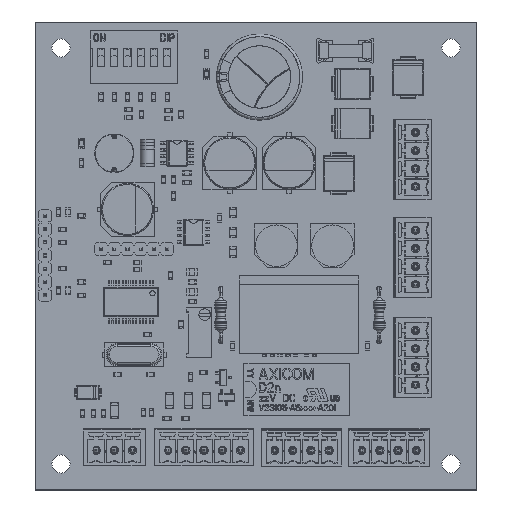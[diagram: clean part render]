
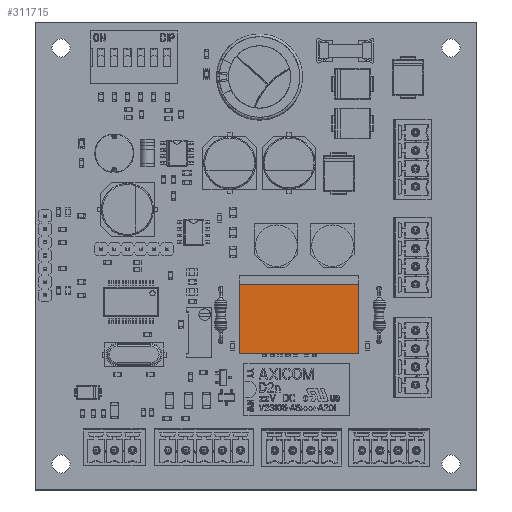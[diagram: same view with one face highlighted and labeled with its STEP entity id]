
A CAD part, top view. The second image highlights one B-rep face of the part: STEP entity #311715.
In plain terms, the highlighted planar face has unit normal (0, 0, 1).
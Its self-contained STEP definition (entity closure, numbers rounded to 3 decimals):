
#311401 = VERTEX_POINT('',#311402);
#311402 = CARTESIAN_POINT('',(-11.5,-7.5,1.6));
#311409 = PLANE('',#311410);
#311410 = AXIS2_PLACEMENT_3D('',#311411,#311412,#311413);
#311411 = CARTESIAN_POINT('',(-11.5,-7.5,0.));
#311412 = DIRECTION('',(-1.,0.,0.));
#311413 = DIRECTION('',(0.,1.,0.));
#311421 = PLANE('',#311422);
#311422 = AXIS2_PLACEMENT_3D('',#311423,#311424,#311425);
#311423 = CARTESIAN_POINT('',(11.5,-7.5,0.));
#311424 = DIRECTION('',(0.,-1.,0.));
#311425 = DIRECTION('',(-1.,0.,0.));
#311433 = EDGE_CURVE('',#311401,#311434,#311436,.T.);
#311434 = VERTEX_POINT('',#311435);
#311435 = CARTESIAN_POINT('',(-11.5,7.5,1.6));
#311436 = SURFACE_CURVE('',#311437,(#311441,#311448),.PCURVE_S1.);
#311437 = LINE('',#311438,#311439);
#311438 = CARTESIAN_POINT('',(-11.5,-7.5,1.6));
#311439 = VECTOR('',#311440,1.);
#311440 = DIRECTION('',(0.,1.,0.));
#311441 = PCURVE('',#311409,#311442);
#311442 = DEFINITIONAL_REPRESENTATION('',(#311443),#311447);
#311443 = LINE('',#311444,#311445);
#311444 = CARTESIAN_POINT('',(0.,-1.6));
#311445 = VECTOR('',#311446,1.);
#311446 = DIRECTION('',(1.,0.));
#311447 = ( GEOMETRIC_REPRESENTATION_CONTEXT(2) 
PARAMETRIC_REPRESENTATION_CONTEXT() REPRESENTATION_CONTEXT('2D SPACE',''
  ) );
#311448 = PCURVE('',#311449,#311454);
#311449 = PLANE('',#311450);
#311450 = AXIS2_PLACEMENT_3D('',#311451,#311452,#311453);
#311451 = CARTESIAN_POINT('',(-11.5,-7.5,1.6));
#311452 = DIRECTION('',(0.,0.,1.));
#311453 = DIRECTION('',(1.,0.,0.));
#311454 = DEFINITIONAL_REPRESENTATION('',(#311455),#311459);
#311455 = LINE('',#311456,#311457);
#311456 = CARTESIAN_POINT('',(0.,0.));
#311457 = VECTOR('',#311458,1.);
#311458 = DIRECTION('',(0.,1.));
#311459 = ( GEOMETRIC_REPRESENTATION_CONTEXT(2) 
PARAMETRIC_REPRESENTATION_CONTEXT() REPRESENTATION_CONTEXT('2D SPACE',''
  ) );
#311477 = PLANE('',#311478);
#311478 = AXIS2_PLACEMENT_3D('',#311479,#311480,#311481);
#311479 = CARTESIAN_POINT('',(-11.5,7.5,0.));
#311480 = DIRECTION('',(0.,1.,0.));
#311481 = DIRECTION('',(1.,0.,0.));
#311519 = EDGE_CURVE('',#311434,#311520,#311522,.T.);
#311520 = VERTEX_POINT('',#311521);
#311521 = CARTESIAN_POINT('',(11.5,7.5,1.6));
#311522 = SURFACE_CURVE('',#311523,(#311527,#311534),.PCURVE_S1.);
#311523 = LINE('',#311524,#311525);
#311524 = CARTESIAN_POINT('',(-11.5,7.5,1.6));
#311525 = VECTOR('',#311526,1.);
#311526 = DIRECTION('',(1.,0.,0.));
#311527 = PCURVE('',#311477,#311528);
#311528 = DEFINITIONAL_REPRESENTATION('',(#311529),#311533);
#311529 = LINE('',#311530,#311531);
#311530 = CARTESIAN_POINT('',(0.,-1.6));
#311531 = VECTOR('',#311532,1.);
#311532 = DIRECTION('',(1.,0.));
#311533 = ( GEOMETRIC_REPRESENTATION_CONTEXT(2) 
PARAMETRIC_REPRESENTATION_CONTEXT() REPRESENTATION_CONTEXT('2D SPACE',''
  ) );
#311534 = PCURVE('',#311449,#311535);
#311535 = DEFINITIONAL_REPRESENTATION('',(#311536),#311540);
#311536 = LINE('',#311537,#311538);
#311537 = CARTESIAN_POINT('',(0.,15.));
#311538 = VECTOR('',#311539,1.);
#311539 = DIRECTION('',(1.,0.));
#311540 = ( GEOMETRIC_REPRESENTATION_CONTEXT(2) 
PARAMETRIC_REPRESENTATION_CONTEXT() REPRESENTATION_CONTEXT('2D SPACE',''
  ) );
#311558 = PLANE('',#311559);
#311559 = AXIS2_PLACEMENT_3D('',#311560,#311561,#311562);
#311560 = CARTESIAN_POINT('',(11.5,7.5,0.));
#311561 = DIRECTION('',(1.,0.,0.));
#311562 = DIRECTION('',(0.,-1.,0.));
#311595 = EDGE_CURVE('',#311520,#311596,#311598,.T.);
#311596 = VERTEX_POINT('',#311597);
#311597 = CARTESIAN_POINT('',(11.5,-7.5,1.6));
#311598 = SURFACE_CURVE('',#311599,(#311603,#311610),.PCURVE_S1.);
#311599 = LINE('',#311600,#311601);
#311600 = CARTESIAN_POINT('',(11.5,7.5,1.6));
#311601 = VECTOR('',#311602,1.);
#311602 = DIRECTION('',(0.,-1.,0.));
#311603 = PCURVE('',#311558,#311604);
#311604 = DEFINITIONAL_REPRESENTATION('',(#311605),#311609);
#311605 = LINE('',#311606,#311607);
#311606 = CARTESIAN_POINT('',(0.,-1.6));
#311607 = VECTOR('',#311608,1.);
#311608 = DIRECTION('',(1.,0.));
#311609 = ( GEOMETRIC_REPRESENTATION_CONTEXT(2) 
PARAMETRIC_REPRESENTATION_CONTEXT() REPRESENTATION_CONTEXT('2D SPACE',''
  ) );
#311610 = PCURVE('',#311449,#311611);
#311611 = DEFINITIONAL_REPRESENTATION('',(#311612),#311616);
#311612 = LINE('',#311613,#311614);
#311613 = CARTESIAN_POINT('',(23.,15.));
#311614 = VECTOR('',#311615,1.);
#311615 = DIRECTION('',(0.,-1.));
#311616 = ( GEOMETRIC_REPRESENTATION_CONTEXT(2) 
PARAMETRIC_REPRESENTATION_CONTEXT() REPRESENTATION_CONTEXT('2D SPACE',''
  ) );
#311666 = EDGE_CURVE('',#311596,#311401,#311667,.T.);
#311667 = SURFACE_CURVE('',#311668,(#311672,#311679),.PCURVE_S1.);
#311668 = LINE('',#311669,#311670);
#311669 = CARTESIAN_POINT('',(11.5,-7.5,1.6));
#311670 = VECTOR('',#311671,1.);
#311671 = DIRECTION('',(-1.,0.,0.));
#311672 = PCURVE('',#311421,#311673);
#311673 = DEFINITIONAL_REPRESENTATION('',(#311674),#311678);
#311674 = LINE('',#311675,#311676);
#311675 = CARTESIAN_POINT('',(0.,-1.6));
#311676 = VECTOR('',#311677,1.);
#311677 = DIRECTION('',(1.,0.));
#311678 = ( GEOMETRIC_REPRESENTATION_CONTEXT(2) 
PARAMETRIC_REPRESENTATION_CONTEXT() REPRESENTATION_CONTEXT('2D SPACE',''
  ) );
#311679 = PCURVE('',#311449,#311680);
#311680 = DEFINITIONAL_REPRESENTATION('',(#311681),#311685);
#311681 = LINE('',#311682,#311683);
#311682 = CARTESIAN_POINT('',(23.,0.));
#311683 = VECTOR('',#311684,1.);
#311684 = DIRECTION('',(-1.,0.));
#311685 = ( GEOMETRIC_REPRESENTATION_CONTEXT(2) 
PARAMETRIC_REPRESENTATION_CONTEXT() REPRESENTATION_CONTEXT('2D SPACE',''
  ) );
#311715 = ADVANCED_FACE('',(#311716),#311449,.T.);
#311716 = FACE_BOUND('',#311717,.F.);
#311717 = EDGE_LOOP('',(#311718,#311719,#311720,#311721));
#311718 = ORIENTED_EDGE('',*,*,#311433,.T.);
#311719 = ORIENTED_EDGE('',*,*,#311519,.T.);
#311720 = ORIENTED_EDGE('',*,*,#311595,.T.);
#311721 = ORIENTED_EDGE('',*,*,#311666,.T.);
